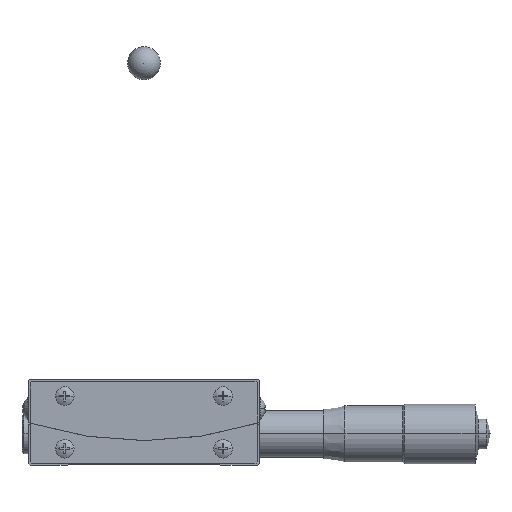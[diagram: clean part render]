
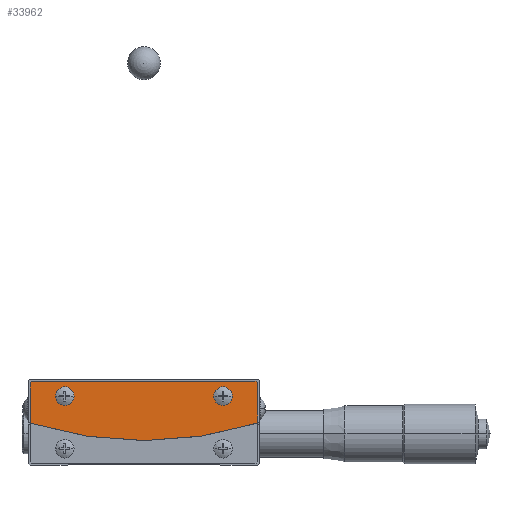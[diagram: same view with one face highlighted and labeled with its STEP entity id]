
A CAD part, front view. The second image highlights one B-rep face of the part: STEP entity #33962.
In plain terms, the highlighted planar face has unit normal (0, -1, 0).
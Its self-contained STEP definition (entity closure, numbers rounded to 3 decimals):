
#354 = CIRCLE ( 'NONE', #419, 114.5 ) ;
#355 = CARTESIAN_POINT ( 'NONE',  ( -34.149, -35.5, -13.289 ) ) ;
#356 = DIRECTION ( 'NONE',  ( 1., 0., 0. ) ) ;
#357 = DIRECTION ( 'NONE',  ( 0., -1., 0. ) ) ;
#358 = CARTESIAN_POINT ( 'NONE',  ( -34., -35.5, -12.812 ) ) ;
#359 = AXIS2_PLACEMENT_3D ( 'NONE', #358, #357, #356 ) ;
#360 = CIRCLE ( 'NONE', #359, 0.5 ) ;
#361 = CARTESIAN_POINT ( 'NONE',  ( -34.5, -35.5, -12.812 ) ) ;
#362 = DIRECTION ( 'NONE',  ( 0., 0., -1. ) ) ;
#363 = VECTOR ( 'NONE', #362, 1000. ) ;
#364 = CARTESIAN_POINT ( 'NONE',  ( -34.5, -35.5, -1. ) ) ;
#365 = LINE ( 'NONE', #364, #363 ) ;
#366 = CARTESIAN_POINT ( 'NONE',  ( -34.5, -35.5, -1. ) ) ;
#367 = DIRECTION ( 'NONE',  ( -0.707, 0., -0.707 ) ) ;
#368 = VECTOR ( 'NONE', #367, 1000. ) ;
#369 = CARTESIAN_POINT ( 'NONE',  ( -34., -35.5, -0.5 ) ) ;
#370 = LINE ( 'NONE', #369, #368 ) ;
#387 = CARTESIAN_POINT ( 'NONE',  ( 34., -35.5, -0.5 ) ) ;
#388 = DIRECTION ( 'NONE',  ( -1., 0., 0. ) ) ;
#389 = VECTOR ( 'NONE', #388, 1000. ) ;
#390 = CARTESIAN_POINT ( 'NONE',  ( 34., -35.5, -0.5 ) ) ;
#391 = LINE ( 'NONE', #390, #389 ) ;
#392 = DIRECTION ( 'NONE',  ( 0., 0., -1. ) ) ;
#393 = DIRECTION ( 'NONE',  ( 0., 1., 0. ) ) ;
#394 = CARTESIAN_POINT ( 'NONE',  ( 24., -35.5, -5. ) ) ;
#395 = AXIS2_PLACEMENT_3D ( 'NONE', #394, #393, #392 ) ;
#396 = CIRCLE ( 'NONE', #395, 2.8 ) ;
#397 = DIRECTION ( 'NONE',  ( 0., 0., -1. ) ) ;
#398 = DIRECTION ( 'NONE',  ( 0., 1., 0. ) ) ;
#399 = CARTESIAN_POINT ( 'NONE',  ( -24., -35.5, -5. ) ) ;
#400 = AXIS2_PLACEMENT_3D ( 'NONE', #399, #398, #397 ) ;
#401 = CIRCLE ( 'NONE', #400, 2.8 ) ;
#402 = DIRECTION ( 'NONE',  ( 1., 0., 0. ) ) ;
#403 = DIRECTION ( 'NONE',  ( 0., -1., 0. ) ) ;
#404 = CARTESIAN_POINT ( 'NONE',  ( -34., -35.5, -12.812 ) ) ;
#405 = AXIS2_PLACEMENT_3D ( 'NONE', #404, #403, #402 ) ;
#406 = PLANE ( 'NONE',  #405 ) ;
#407 = FACE_OUTER_BOUND ( 'NONE', #33971, .T. ) ;
#408 = FACE_BOUND ( 'NONE', #33967, .T. ) ;
#409 = FACE_BOUND ( 'NONE', #33963, .T. ) ;
#410 = CARTESIAN_POINT ( 'NONE',  ( 34.5, -35.5, -1. ) ) ;
#411 = DIRECTION ( 'NONE',  ( 0., 0., 1. ) ) ;
#412 = VECTOR ( 'NONE', #411, 1000. ) ;
#413 = CARTESIAN_POINT ( 'NONE',  ( 34.5, -35.5, -13.179 ) ) ;
#414 = LINE ( 'NONE', #413, #412 ) ;
#415 = CARTESIAN_POINT ( 'NONE',  ( 34.5, -35.5, -13.179 ) ) ;
#416 = DIRECTION ( 'NONE',  ( 1., 0., 0. ) ) ;
#417 = DIRECTION ( 'NONE',  ( 0., -1., 0. ) ) ;
#418 = CARTESIAN_POINT ( 'NONE',  ( 0., -35.5, 96. ) ) ;
#419 = AXIS2_PLACEMENT_3D ( 'NONE', #418, #417, #416 ) ;
#452 = CARTESIAN_POINT ( 'NONE',  ( -34., -35.5, -0.5 ) ) ;
#463 = DIRECTION ( 'NONE',  ( -0.707, 0., 0.707 ) ) ;
#464 = VECTOR ( 'NONE', #463, 1000. ) ;
#465 = CARTESIAN_POINT ( 'NONE',  ( 34.5, -35.5, -1. ) ) ;
#466 = LINE ( 'NONE', #465, #464 ) ;
#21612 = CARTESIAN_POINT ( 'NONE',  ( 26.8, -35.5, -5. ) ) ;
#21614 = CARTESIAN_POINT ( 'NONE',  ( 21.2, -35.5, -5. ) ) ;
#21616 = DIRECTION ( 'NONE',  ( 0., 0., -1. ) ) ;
#21618 = DIRECTION ( 'NONE',  ( 0., 1., 0. ) ) ;
#21620 = AXIS2_PLACEMENT_3D ( 'NONE', #21634, #21618, #21616 ) ;
#21622 = CIRCLE ( 'NONE', #21620, 2.8 ) ;
#21634 = CARTESIAN_POINT ( 'NONE',  ( 24., -35.5, -5. ) ) ;
#22289 = CARTESIAN_POINT ( 'NONE',  ( -21.2, -35.5, -5. ) ) ;
#22292 = CARTESIAN_POINT ( 'NONE',  ( -26.8, -35.5, -5. ) ) ;
#22293 = DIRECTION ( 'NONE',  ( 0., 0., -1. ) ) ;
#22294 = DIRECTION ( 'NONE',  ( 0., 1., 0. ) ) ;
#22296 = CARTESIAN_POINT ( 'NONE',  ( -24., -35.5, -5. ) ) ;
#22297 = AXIS2_PLACEMENT_3D ( 'NONE', #22296, #22294, #22293 ) ;
#22307 = CIRCLE ( 'NONE', #22297, 2.8 ) ;
#33947 = EDGE_CURVE ( 'NONE', #33975, #33948, #370, .T. ) ;
#33948 = VERTEX_POINT ( 'NONE', #366 ) ;
#33949 = ORIENTED_EDGE ( 'NONE', *, *, #33950, .T. ) ;
#33950 = EDGE_CURVE ( 'NONE', #33948, #33951, #365, .T. ) ;
#33951 = VERTEX_POINT ( 'NONE', #361 ) ;
#33952 = ORIENTED_EDGE ( 'NONE', *, *, #33953, .T. ) ;
#33953 = EDGE_CURVE ( 'NONE', #33951, #33954, #360, .T. ) ;
#33954 = VERTEX_POINT ( 'NONE', #355 ) ;
#33955 = ORIENTED_EDGE ( 'NONE', *, *, #33956, .T. ) ;
#33956 = EDGE_CURVE ( 'NONE', #33954, #33957, #354, .T. ) ;
#33957 = VERTEX_POINT ( 'NONE', #415 ) ;
#33958 = ORIENTED_EDGE ( 'NONE', *, *, #33959, .T. ) ;
#33959 = EDGE_CURVE ( 'NONE', #33957, #33960, #414, .T. ) ;
#33960 = VERTEX_POINT ( 'NONE', #410 ) ;
#33961 = ORIENTED_EDGE ( 'NONE', *, *, #34013, .T. ) ;
#33962 = ADVANCED_FACE ( 'NONE', ( #409, #408, #407 ), #406, .T. ) ;
#33963 = EDGE_LOOP ( 'NONE', ( #33964, #33966 ) ) ;
#33964 = ORIENTED_EDGE ( 'NONE', *, *, #33965, .T. ) ;
#33965 = EDGE_CURVE ( 'NONE', #46010, #46009, #401, .T. ) ;
#33966 = ORIENTED_EDGE ( 'NONE', *, *, #46008, .T. ) ;
#33967 = EDGE_LOOP ( 'NONE', ( #33968, #33970 ) ) ;
#33968 = ORIENTED_EDGE ( 'NONE', *, *, #33969, .T. ) ;
#33969 = EDGE_CURVE ( 'NONE', #45817, #45816, #396, .T. ) ;
#33970 = ORIENTED_EDGE ( 'NONE', *, *, #45815, .T. ) ;
#33971 = EDGE_LOOP ( 'NONE', ( #33972, #33976, #33949, #33952, #33955, #33958, #33961 ) ) ;
#33972 = ORIENTED_EDGE ( 'NONE', *, *, #33973, .T. ) ;
#33973 = EDGE_CURVE ( 'NONE', #33974, #33975, #391, .T. ) ;
#33974 = VERTEX_POINT ( 'NONE', #387 ) ;
#33975 = VERTEX_POINT ( 'NONE', #452 ) ;
#33976 = ORIENTED_EDGE ( 'NONE', *, *, #33947, .T. ) ;
#34013 = EDGE_CURVE ( 'NONE', #33960, #33974, #466, .T. ) ;
#45815 = EDGE_CURVE ( 'NONE', #45816, #45817, #21622, .T. ) ;
#45816 = VERTEX_POINT ( 'NONE', #21614 ) ;
#45817 = VERTEX_POINT ( 'NONE', #21612 ) ;
#46008 = EDGE_CURVE ( 'NONE', #46009, #46010, #22307, .T. ) ;
#46009 = VERTEX_POINT ( 'NONE', #22292 ) ;
#46010 = VERTEX_POINT ( 'NONE', #22289 ) ;
